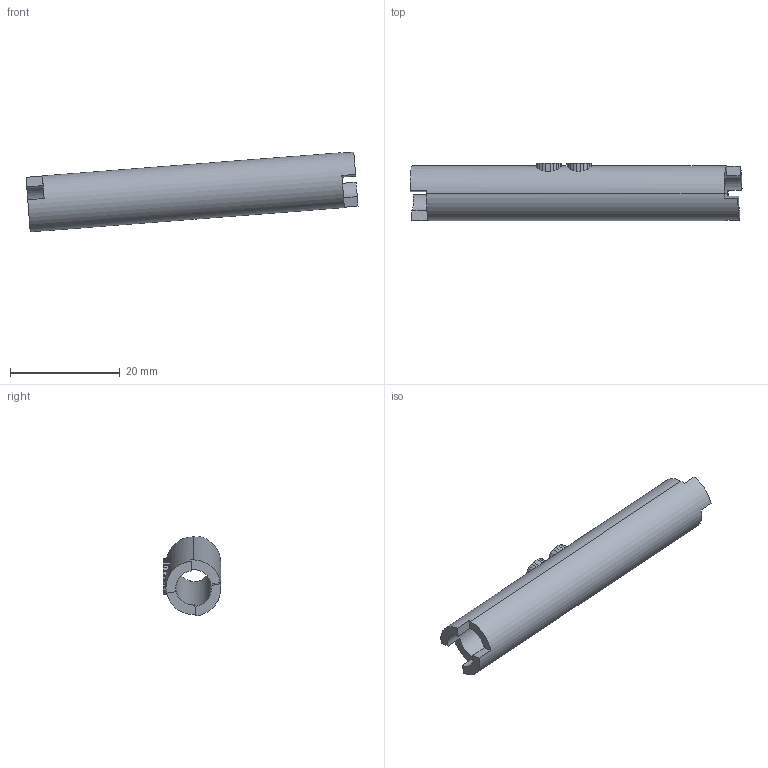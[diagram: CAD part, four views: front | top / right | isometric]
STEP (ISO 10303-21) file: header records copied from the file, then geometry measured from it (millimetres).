
FILE_DESCRIPTION((''),'2;1');
FILE_NAME('0000236849_PRT','2025-11-12T18:32:53',('Wyndorps'),(''),'CREO PARAMETRIC BY PTC INC, 2025010','CREO PARAMETRIC BY PTC INC, 2025010','');
FILE_SCHEMA(('CONFIG_CONTROL_DESIGN'));
Length unit declared in the file: millimetre
Products named in the file (1): 0000236849_PRT
Bounding box: 60.45 x 10.5 x 14.5 mm (x, y, z)
Volume: 2599 mm3; surface area: 3135.3 mm2
Topology: 1 solids, 1 shells, 140 faces, 411 edges, 274 vertices
Faces by surface type: plane 135, cylinder 5
Entity records: 4631 total; most frequent: CARTESIAN_POINT 1009, ORIENTED_EDGE 822, DIRECTION 633, EDGE_CURVE 411, VECTOR 285, LINE 285, VERTEX_POINT 274, AXIS2_PLACEMENT_3D 174
